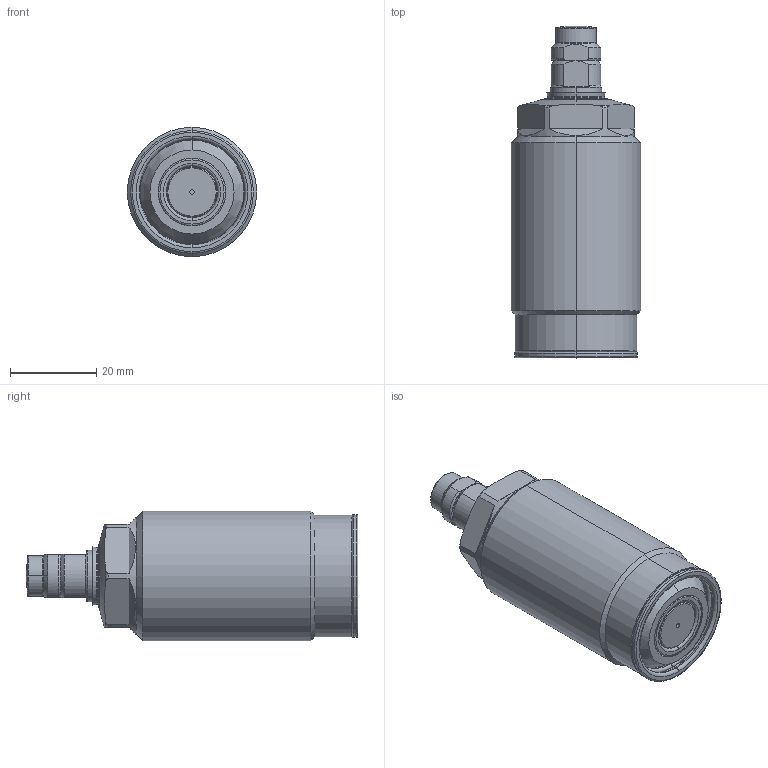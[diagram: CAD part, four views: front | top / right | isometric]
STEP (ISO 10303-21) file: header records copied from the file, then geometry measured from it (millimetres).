
FILE_DESCRIPTION(/* description */ (''),/* implementation_level */ '2;1');
FILE_NAME(/* name */ 'TSC30-M.stp',/* time_stamp */ '2026-02-04T13:57:22+08:00',/* author */ (''),/* organization */ (''),/* preprocessor_version */ 'ST-DEVELOPER v16.7',/* originating_system */ 'SIEMENS PLM Software NX 12.0',/* authorisation */ '');
FILE_SCHEMA (('AUTOMOTIVE_DESIGN { 1 0 10303 214 3 1 1 1 }'));
Length unit declared in the file: millimetre
Products named in the file (9): XLD-M8SP_pad; XLD-M8_Oring; XLD-M8SP_pin; XLD-M8SP_contactbolt; AS568-022(90); TSC30-M-01; TSC30-M-02; TSC30-M-03; LD0303-xM_step
Assembly tree (8 placements, depth 3):
  LD0303-xM_step
    TSC30-M-02
    TSC30-M-01
    AS568-022(90)
    TSC30-M-03
      XLD-M8SP_contactbolt
      XLD-M8SP_pin
      XLD-M8_Oring
      XLD-M8SP_pad
Bounding box: 30 x 77 x 30 mm (x, y, z)
Volume: 40412.9 mm3; surface area: 10348 mm2
Topology: 7 solids, 7 shells, 217 faces, 484 edges, 291 vertices
Faces by surface type: torus 67, cylinder 59, plane 46, cone 39, sphere 6
Entity records: 6784 total; most frequent: CARTESIAN_POINT 1635, DIRECTION 1160, ORIENTED_EDGE 968, AXIS2_PLACEMENT_3D 514, EDGE_CURVE 484, VERTEX_POINT 291, CIRCLE 288, EDGE_LOOP 239
